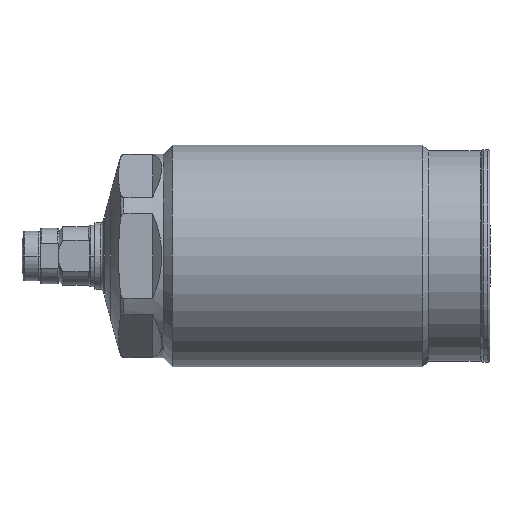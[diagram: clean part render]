
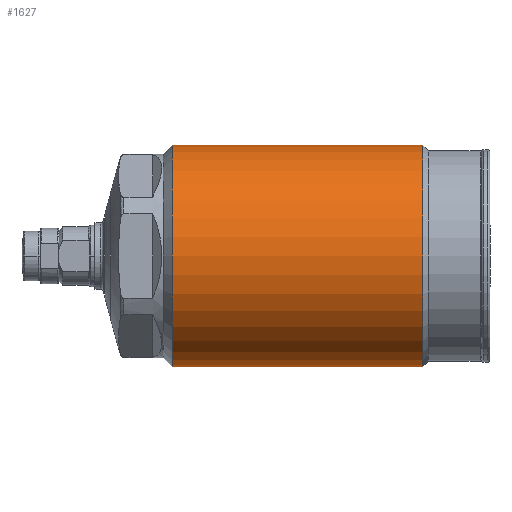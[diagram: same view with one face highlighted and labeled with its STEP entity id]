
A CAD part, left-side view. The second image highlights one B-rep face of the part: STEP entity #1627.
In plain terms, the highlighted cylindrical face has radius 18 mm (diameter 36 mm), a partial arc.
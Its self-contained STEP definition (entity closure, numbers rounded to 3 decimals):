
#1245=CYLINDRICAL_SURFACE('',#4347,18.);
#1319=LINE('',#6023,#1454);
#1320=LINE('',#6024,#1455);
#1454=VECTOR('',#4947,1.);
#1455=VECTOR('',#4948,1.);
#1627=ADVANCED_FACE('',(#1878),#1245,.T.);
#1878=FACE_OUTER_BOUND('',#2076,.T.);
#2076=EDGE_LOOP('',(#2582,#2583,#2584,#2585));
#2582=ORIENTED_EDGE('',*,*,#3553,.F.);
#2583=ORIENTED_EDGE('',*,*,#3639,.T.);
#2584=ORIENTED_EDGE('',*,*,#3554,.T.);
#2585=ORIENTED_EDGE('',*,*,#3640,.F.);
#3230=VERTEX_POINT('',#6015);
#3231=VERTEX_POINT('',#6017);
#3232=VERTEX_POINT('',#6021);
#3233=VERTEX_POINT('',#6022);
#3553=EDGE_CURVE('',#3233,#3231,#1319,.T.);
#3554=EDGE_CURVE('',#3232,#3230,#1320,.T.);
#3639=EDGE_CURVE('',#3233,#3232,#4001,.T.);
#3640=EDGE_CURVE('',#3231,#3230,#4002,.T.);
#4001=CIRCLE('',#4344,18.);
#4002=CIRCLE('',#4346,18.);
#4344=AXIS2_PLACEMENT_3D('',#6419,#5093,#5094);
#4346=AXIS2_PLACEMENT_3D('',#6421,#5097,#5098);
#4347=AXIS2_PLACEMENT_3D('',#6422,#5099,#5100);
#4947=DIRECTION('',(0.,1.,0.));
#4948=DIRECTION('',(0.,1.,0.));
#5093=DIRECTION('',(0.,1.,0.));
#5094=DIRECTION('',(0.,0.,1.));
#5097=DIRECTION('',(0.,1.,0.));
#5098=DIRECTION('',(0.,0.,1.));
#5099=DIRECTION('',(0.,1.,0.));
#5100=DIRECTION('',(0.,0.,1.));
#6015=CARTESIAN_POINT('',(0.,51.6,18.));
#6017=CARTESIAN_POINT('',(0.,51.6,-18.));
#6021=CARTESIAN_POINT('',(0.,10.9,18.));
#6022=CARTESIAN_POINT('',(0.,10.9,-18.));
#6023=CARTESIAN_POINT('',(0.,64.3,-18.));
#6024=CARTESIAN_POINT('',(0.,64.3,18.));
#6419=CARTESIAN_POINT('',(0.,10.9,0.));
#6421=CARTESIAN_POINT('',(0.,51.6,0.));
#6422=CARTESIAN_POINT('',(0.,64.3,0.));
